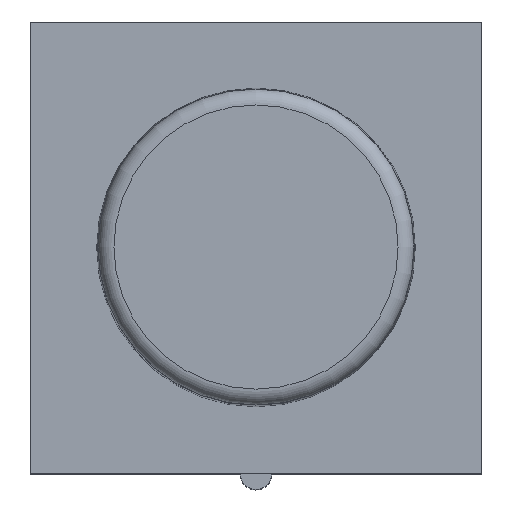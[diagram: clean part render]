
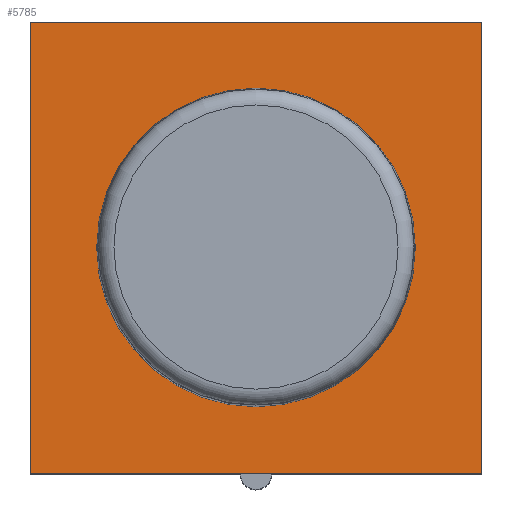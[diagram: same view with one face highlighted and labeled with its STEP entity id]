
A CAD part, top view. The second image highlights one B-rep face of the part: STEP entity #5785.
In plain terms, the highlighted planar face has unit normal (0, 0, 1).
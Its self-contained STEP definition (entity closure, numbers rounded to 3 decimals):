
#65=FACE_BOUND('',#483,.T.);
#82=CIRCLE('',#6134,1.125);
#170=FACE_OUTER_BOUND('',#482,.T.);
#482=EDGE_LOOP('',(#4159,#4160,#4161,#4162));
#483=EDGE_LOOP('',(#4163,#4164,#4165,#4166));
#946=LINE('',#8339,#1759);
#973=LINE('',#8394,#1786);
#993=LINE('',#8436,#1806);
#994=LINE('',#8438,#1807);
#995=LINE('',#8439,#1808);
#996=LINE('',#8441,#1809);
#997=LINE('',#8442,#1810);
#1759=VECTOR('',#6751,8.5);
#1786=VECTOR('',#6790,10.);
#1806=VECTOR('',#6830,8.5);
#1807=VECTOR('',#6831,8.5);
#1808=VECTOR('',#6832,8.5);
#1809=VECTOR('',#6833,10.);
#1810=VECTOR('',#6834,2.25);
#2521=VERTEX_POINT('',#8336);
#2522=VERTEX_POINT('',#8338);
#2543=VERTEX_POINT('',#8391);
#2544=VERTEX_POINT('',#8393);
#2547=VERTEX_POINT('',#8403);
#2556=VERTEX_POINT('',#8435);
#2557=VERTEX_POINT('',#8437);
#2558=VERTEX_POINT('',#8440);
#3129=EDGE_CURVE('',#2521,#2522,#946,.T.);
#3156=EDGE_CURVE('',#2544,#2543,#973,.T.);
#3161=EDGE_CURVE('',#2547,#2544,#82,.T.);
#3178=EDGE_CURVE('',#2522,#2556,#993,.T.);
#3179=EDGE_CURVE('',#2557,#2521,#994,.T.);
#3180=EDGE_CURVE('',#2556,#2557,#995,.T.);
#3181=EDGE_CURVE('',#2558,#2547,#996,.T.);
#3182=EDGE_CURVE('',#2543,#2558,#997,.T.);
#4159=ORIENTED_EDGE('',*,*,#3178,.F.);
#4160=ORIENTED_EDGE('',*,*,#3129,.F.);
#4161=ORIENTED_EDGE('',*,*,#3179,.F.);
#4162=ORIENTED_EDGE('',*,*,#3180,.F.);
#4163=ORIENTED_EDGE('',*,*,#3181,.T.);
#4164=ORIENTED_EDGE('',*,*,#3161,.T.);
#4165=ORIENTED_EDGE('',*,*,#3156,.T.);
#4166=ORIENTED_EDGE('',*,*,#3182,.T.);
#5484=PLANE('',#6140);
#5785=ADVANCED_FACE('',(#170,#65),#5484,.T.);
#6134=AXIS2_PLACEMENT_3D('',#8404,#6800,#6801);
#6140=AXIS2_PLACEMENT_3D('',#8434,#6828,#6829);
#6751=DIRECTION('',(0.,-1.,0.));
#6790=DIRECTION('',(0.,1.,0.));
#6800=DIRECTION('center_axis',(0.,0.,-1.));
#6801=DIRECTION('ref_axis',(0.,1.,0.));
#6828=DIRECTION('center_axis',(0.,0.,1.));
#6829=DIRECTION('ref_axis',(-1.,0.,0.));
#6830=DIRECTION('',(-1.,0.,0.));
#6831=DIRECTION('',(1.,0.,0.));
#6832=DIRECTION('',(0.,1.,0.));
#6833=DIRECTION('',(0.,-1.,0.));
#6834=DIRECTION('',(1.,0.,0.));
#8336=CARTESIAN_POINT('',(4.25,4.25,8.5));
#8338=CARTESIAN_POINT('',(4.25,-4.25,8.5));
#8339=CARTESIAN_POINT('',(4.25,4.25,8.5));
#8391=CARTESIAN_POINT('',(-1.125,1.9,8.5));
#8393=CARTESIAN_POINT('',(-1.125,0.,8.5));
#8394=CARTESIAN_POINT('',(-1.125,-1.45,8.5));
#8403=CARTESIAN_POINT('',(1.125,0.,8.5));
#8404=CARTESIAN_POINT('Origin',(0.,0.,8.5));
#8434=CARTESIAN_POINT('Origin',(-4.675,-4.675,8.5));
#8435=CARTESIAN_POINT('',(-4.25,-4.25,8.5));
#8436=CARTESIAN_POINT('',(4.25,-4.25,8.5));
#8437=CARTESIAN_POINT('',(-4.25,4.25,8.5));
#8438=CARTESIAN_POINT('',(-4.25,4.25,8.5));
#8439=CARTESIAN_POINT('',(-4.25,-4.25,8.5));
#8440=CARTESIAN_POINT('',(1.125,1.9,8.5));
#8441=CARTESIAN_POINT('',(1.125,-1.45,8.5));
#8442=CARTESIAN_POINT('',(-1.125,1.9,8.5));
